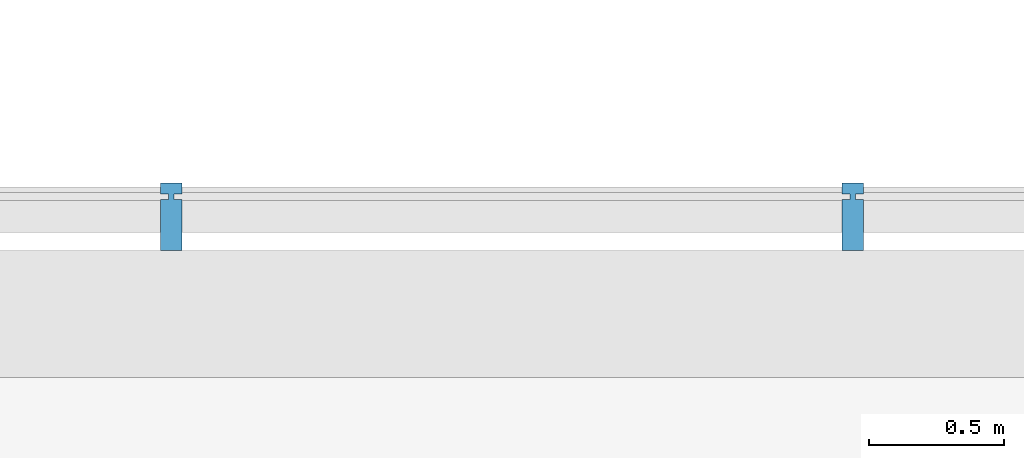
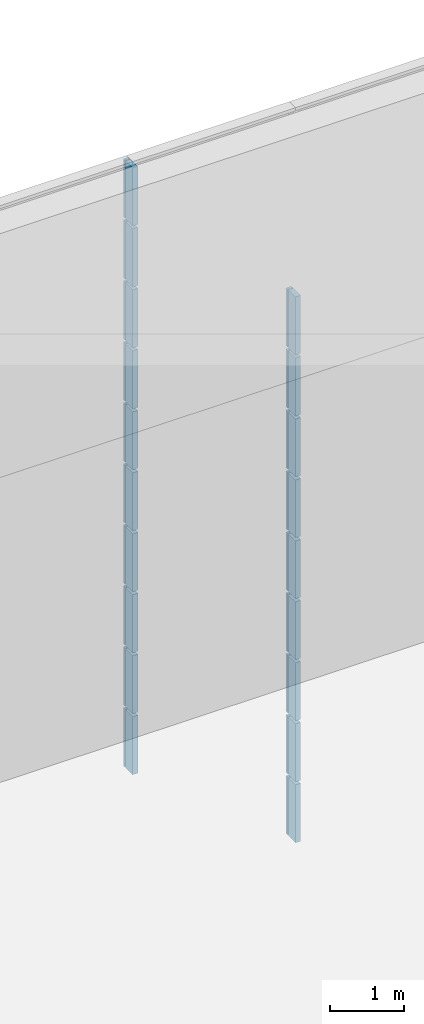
# One storey, part 99 of 105: 19 building element parts, 4 elements without a shape of their own.
"""IFC4 building model written with IfcOpenShell, lengths in millimetres."""

from ifc_helpers import new_model, entity, si_unit, converted_unit, derived_unit, direction, frame, origin_with_axes, place, context, subcontext, project, spatial, triangles, material, element, aggregate, save


model = new_model("IFC4")

# Units and contexts
model_context = context("Model", 3, precision=1e-05, world=origin_with_axes(), true_north=direction((0.0, 1.0)))
body_context = subcontext(model_context, "Body", "Model", "MODEL_VIEW")
ifc_project = project(units=[si_unit("LENGTHUNIT", "METRE", prefix="MILLI"), si_unit("AREAUNIT", "SQUARE_METRE"), si_unit("VOLUMEUNIT", "CUBIC_METRE"), converted_unit("PLANEANGLEUNIT", "DEGREE", entity("IfcLengthMeasure", 0.017453), si_unit("PLANEANGLEUNIT", "RADIAN"), dimensions=[0, 0, 0, 0, 0, 0, 0]), si_unit("SOLIDANGLEUNIT", "STERADIAN"), si_unit("MASSUNIT", "GRAM"), si_unit("TIMEUNIT", "SECOND"), si_unit("THERMODYNAMICTEMPERATUREUNIT", "DEGREE_CELSIUS"), si_unit("LUMINOUSINTENSITYUNIT", "LUMEN"), si_unit("POWERUNIT", "WATT"), derived_unit("THERMALTRANSMITTANCEUNIT", [(si_unit("POWERUNIT", "WATT"), 1), (si_unit("THERMODYNAMICTEMPERATUREUNIT", "KELVIN"), -1), (si_unit("AREAUNIT", "SQUARE_METRE"), -1)])], contexts=[model_context])

# Site, building, storey
site_placement = place(None, origin_with_axes())
site = spatial("IfcSite", under=ifc_project, at=site_placement, Name="Default Site", CompositionType="ELEMENT")
building_placement = place(site_placement, origin_with_axes())
building = spatial("IfcBuilding", under=site, at=building_placement, Name="Default Building", CompositionType="ELEMENT")
storey_placement = place(building_placement, origin_with_axes())
storey = spatial("IfcBuildingStorey", under=building, at=storey_placement, Name="OG - Story", CompositionType="ELEMENT", Elevation=0.0)

# Curtain wall, building element parts
curtain_wall_1_placement = place(storey_placement, origin_with_axes())
curtain_wall_1 = element("IfcCurtainWall", 1, at=curtain_wall_1_placement, inside=storey, Name="Fassade-004", PredefinedType="NOTDEFINED")
ifc_material = material(Name="Blech")
building_element_part_1_placement = place(curtain_wall_1_placement, frame((33014.549222, -4389.262838, 0.0), z_axis=(0.0, 0.0, 1.0), x_axis=(1.0, 0.0, 0.0)))
building_element_part_1 = element("IfcBuildingElementPart", 2, at=building_element_part_1_placement, material=ifc_material, Name="Blech", PredefinedType="NOTDEFINED", context=body_context, shape_type="Tessellation", body=[
    triangles([(41724.211, -9.999, 975.0), (41724.211, -199.999, 975.0), (41694.211, -9.999, 975.0), (41674.211, -9.999, 975.0), (41694.211, 10.0, 975.0), (41724.211, 50.0, 975.0), (41724.211, 10.0, 975.0), (41644.211, -199.999, 975.0), (41644.211, -9.999, 975.0), (41674.211, 10.0, 975.0), (41644.211, 10.0, 975.0), (41644.211, 50.0, 975.0), (41694.211, -9.999, 25.0), (41694.211, 10.0, 25.0), (41724.211, 10.0, 25.0), (41724.211, 50.0, 25.0), (41644.211, 50.0, 25.0), (41644.211, 10.0, 25.0), (41674.211, 10.0, 25.0), (41674.211, -9.999, 25.0), (41644.211, -9.999, 25.0), (41644.211, -199.999, 25.0), (41724.211, -199.999, 25.0), (41724.211, -9.999, 25.0)], [[1, 2, 3], [3, 2, 4], [3, 4, 5], [5, 4, 6], [5, 6, 7], [8, 9, 4], [8, 4, 2], [6, 4, 10], [6, 10, 11], [6, 11, 12], [3, 13, 14], [3, 14, 5], [5, 14, 15], [5, 15, 7], [15, 16, 6], [15, 6, 7], [12, 6, 16], [12, 16, 17], [18, 11, 12], [18, 12, 17], [11, 18, 19], [11, 19, 10], [4, 10, 19], [4, 19, 20], [9, 4, 20], [9, 20, 21], [9, 21, 22], [9, 22, 8], [2, 8, 22], [2, 22, 23], [1, 2, 23], [1, 23, 24], [1, 24, 13], [1, 13, 3], [15, 16, 14], [14, 16, 19], [14, 19, 13], [13, 19, 23], [13, 23, 24], [17, 18, 19], [17, 19, 16], [23, 19, 20], [23, 20, 21], [23, 21, 22]], closed=False),
])
building_element_part_2_placement = place(curtain_wall_1_placement, frame((33014.549222, -4389.262838, 0.0), z_axis=(0.0, 0.0, 1.0), x_axis=(1.0, 0.0, 0.0)))
building_element_part_2 = element("IfcBuildingElementPart", 3, at=building_element_part_2_placement, material=ifc_material, Name="Blech", PredefinedType="NOTDEFINED", context=body_context, shape_type="Tessellation", body=[
    triangles([(41724.211, -9.999, 1975.0), (41724.211, -199.999, 1975.0), (41694.211, -9.999, 1975.0), (41674.211, -9.999, 1975.0), (41694.211, 10.0, 1975.0), (41724.211, 50.0, 1975.0), (41724.211, 10.0, 1975.0), (41644.211, -199.999, 1975.0), (41644.211, -9.999, 1975.0), (41674.211, 10.0, 1975.0), (41644.211, 10.0, 1975.0), (41644.211, 50.0, 1975.0), (41694.211, -9.999, 1025.0), (41694.211, 10.0, 1025.0), (41724.211, 10.0, 1025.0), (41724.211, 50.0, 1025.0), (41644.211, 50.0, 1025.0), (41644.211, 10.0, 1025.0), (41674.211, 10.0, 1025.0), (41674.211, -9.999, 1025.0), (41644.211, -9.999, 1025.0), (41644.211, -199.999, 1025.0), (41724.211, -199.999, 1025.0), (41724.211, -9.999, 1025.0)], [[1, 2, 3], [3, 2, 4], [3, 4, 5], [5, 4, 6], [5, 6, 7], [8, 9, 4], [8, 4, 2], [6, 4, 10], [6, 10, 11], [6, 11, 12], [3, 13, 14], [3, 14, 5], [5, 14, 15], [5, 15, 7], [15, 16, 6], [15, 6, 7], [12, 6, 16], [12, 16, 17], [18, 11, 12], [18, 12, 17], [11, 18, 19], [11, 19, 10], [4, 10, 19], [4, 19, 20], [9, 4, 20], [9, 20, 21], [9, 21, 22], [9, 22, 8], [2, 8, 22], [2, 22, 23], [1, 2, 23], [1, 23, 24], [1, 24, 13], [1, 13, 3], [15, 16, 14], [14, 16, 19], [14, 19, 13], [13, 19, 23], [13, 23, 24], [17, 18, 19], [17, 19, 16], [23, 19, 20], [23, 20, 21], [23, 21, 22]], closed=False),
])
building_element_part_3_placement = place(curtain_wall_1_placement, frame((33014.549222, -4389.262838, 0.0), z_axis=(0.0, 0.0, 1.0), x_axis=(1.0, 0.0, 0.0)))
building_element_part_3 = element("IfcBuildingElementPart", 4, at=building_element_part_3_placement, material=ifc_material, Name="Blech", PredefinedType="NOTDEFINED", context=body_context, shape_type="Tessellation", body=[
    triangles([(39197.895, -9.999, 2975.0), (39197.895, -199.999, 2975.0), (39167.895, -9.999, 2975.0), (39147.895, -9.999, 2975.0), (39167.895, 10.0, 2975.0), (39197.895, 50.0, 2975.0), (39197.895, 10.0, 2975.0), (39117.895, -199.999, 2975.0), (39117.895, -9.999, 2975.0), (39147.895, 10.0, 2975.0), (39117.895, 10.0, 2975.0), (39117.895, 50.0, 2975.0), (39167.895, -9.999, 2025.0), (39167.895, 10.0, 2025.0), (39197.895, 10.0, 2025.0), (39197.895, 50.0, 2025.0), (39117.895, 50.0, 2025.0), (39117.895, 10.0, 2025.0), (39147.895, 10.0, 2025.0), (39147.895, -9.999, 2025.0), (39117.895, -9.999, 2025.0), (39117.895, -199.999, 2025.0), (39197.895, -199.999, 2025.0), (39197.895, -9.999, 2025.0)], [[1, 2, 3], [3, 2, 4], [3, 4, 5], [5, 4, 6], [5, 6, 7], [8, 9, 4], [8, 4, 2], [6, 4, 10], [6, 10, 11], [6, 11, 12], [3, 13, 14], [3, 14, 5], [5, 14, 15], [5, 15, 7], [15, 16, 6], [15, 6, 7], [12, 6, 16], [12, 16, 17], [18, 11, 12], [18, 12, 17], [11, 18, 19], [11, 19, 10], [4, 10, 19], [4, 19, 20], [9, 4, 20], [9, 20, 21], [9, 21, 22], [9, 22, 8], [2, 8, 22], [2, 22, 23], [1, 2, 23], [1, 23, 24], [1, 24, 13], [1, 13, 3], [15, 16, 14], [14, 16, 19], [14, 19, 13], [13, 19, 23], [13, 23, 24], [17, 18, 19], [17, 19, 16], [23, 19, 20], [23, 20, 21], [23, 21, 22]], closed=False),
])
building_element_part_4_placement = place(curtain_wall_1_placement, frame((33014.549222, -4389.262838, 0.0), z_axis=(0.0, 0.0, 1.0), x_axis=(1.0, 0.0, 0.0)))
building_element_part_4 = element("IfcBuildingElementPart", 5, at=building_element_part_4_placement, material=ifc_material, Name="Blech", PredefinedType="NOTDEFINED", context=body_context, shape_type="Tessellation", body=[
    triangles([(41724.211, -9.999, 2975.0), (41724.211, -199.999, 2975.0), (41694.211, -9.999, 2975.0), (41674.211, -9.999, 2975.0), (41694.211, 10.0, 2975.0), (41724.211, 50.0, 2975.0), (41724.211, 10.0, 2975.0), (41644.211, -199.999, 2975.0), (41644.211, -9.999, 2975.0), (41674.211, 10.0, 2975.0), (41644.211, 10.0, 2975.0), (41644.211, 50.0, 2975.0), (41694.211, -9.999, 2025.0), (41694.211, 10.0, 2025.0), (41724.211, 10.0, 2025.0), (41724.211, 50.0, 2025.0), (41644.211, 50.0, 2025.0), (41644.211, 10.0, 2025.0), (41674.211, 10.0, 2025.0), (41674.211, -9.999, 2025.0), (41644.211, -9.999, 2025.0), (41644.211, -199.999, 2025.0), (41724.211, -199.999, 2025.0), (41724.211, -9.999, 2025.0)], [[1, 2, 3], [3, 2, 4], [3, 4, 5], [5, 4, 6], [5, 6, 7], [8, 9, 4], [8, 4, 2], [6, 4, 10], [6, 10, 11], [6, 11, 12], [3, 13, 14], [3, 14, 5], [5, 14, 15], [5, 15, 7], [15, 16, 6], [15, 6, 7], [12, 6, 16], [12, 16, 17], [18, 11, 12], [18, 12, 17], [11, 18, 19], [11, 19, 10], [4, 10, 19], [4, 19, 20], [9, 4, 20], [9, 20, 21], [9, 21, 22], [9, 22, 8], [2, 8, 22], [2, 22, 23], [1, 2, 23], [1, 23, 24], [1, 24, 13], [1, 13, 3], [15, 16, 14], [14, 16, 19], [14, 19, 13], [13, 19, 23], [13, 23, 24], [17, 18, 19], [17, 19, 16], [23, 19, 20], [23, 20, 21], [23, 21, 22]], closed=False),
])
aggregate(curtain_wall_1, [building_element_part_1, building_element_part_2, building_element_part_3, building_element_part_4])

curtain_wall_2_placement = place(storey_placement, origin_with_axes())
curtain_wall_2 = element("IfcCurtainWall", 6, at=curtain_wall_2_placement, inside=storey, Name="Fassade-004", PredefinedType="NOTDEFINED")
building_element_part_5_placement = place(curtain_wall_2_placement, frame((33014.549222, -4389.262838, 3000.0), z_axis=(0.0, 0.0, 1.0), x_axis=(1.0, 0.0, 0.0)))
building_element_part_5 = element("IfcBuildingElementPart", 7, at=building_element_part_5_placement, material=ifc_material, Name="Blech", PredefinedType="NOTDEFINED", context=body_context, shape_type="Tessellation", body=[
    triangles([(39197.895, -9.999, 975.0), (39197.895, -199.999, 975.0), (39167.895, -9.999, 975.0), (39147.895, -9.999, 975.0), (39167.895, 10.0, 975.0), (39197.895, 50.0, 975.0), (39197.895, 10.0, 975.0), (39117.895, -199.999, 975.0), (39117.895, -9.999, 975.0), (39147.895, 10.0, 975.0), (39117.895, 10.0, 975.0), (39117.895, 50.0, 975.0), (39167.895, -9.999, 25.0), (39167.895, 10.0, 25.0), (39197.895, 10.0, 25.0), (39197.895, 50.0, 25.0), (39117.895, 50.0, 25.0), (39117.895, 10.0, 25.0), (39147.895, 10.0, 25.0), (39147.895, -9.999, 25.0), (39117.895, -9.999, 25.0), (39117.895, -199.999, 25.0), (39197.895, -199.999, 25.0), (39197.895, -9.999, 25.0)], [[1, 2, 3], [3, 2, 4], [3, 4, 5], [5, 4, 6], [5, 6, 7], [8, 9, 4], [8, 4, 2], [6, 4, 10], [6, 10, 11], [6, 11, 12], [3, 13, 14], [3, 14, 5], [5, 14, 15], [5, 15, 7], [15, 16, 6], [15, 6, 7], [12, 6, 16], [12, 16, 17], [18, 11, 12], [18, 12, 17], [11, 18, 19], [11, 19, 10], [4, 10, 19], [4, 19, 20], [9, 4, 20], [9, 20, 21], [9, 21, 22], [9, 22, 8], [2, 8, 22], [2, 22, 23], [1, 2, 23], [1, 23, 24], [1, 24, 13], [1, 13, 3], [15, 16, 14], [14, 16, 19], [14, 19, 13], [13, 19, 23], [13, 23, 24], [17, 18, 19], [17, 19, 16], [23, 19, 20], [23, 20, 21], [23, 21, 22]], closed=False),
])
building_element_part_6_placement = place(curtain_wall_2_placement, frame((33014.549222, -4389.262838, 3000.0), z_axis=(0.0, 0.0, 1.0), x_axis=(1.0, 0.0, 0.0)))
building_element_part_6 = element("IfcBuildingElementPart", 8, at=building_element_part_6_placement, material=ifc_material, Name="Blech", PredefinedType="NOTDEFINED", context=body_context, shape_type="Tessellation", body=[
    triangles([(41724.211, -9.999, 975.0), (41724.211, -199.999, 975.0), (41694.211, -9.999, 975.0), (41674.211, -9.999, 975.0), (41694.211, 10.0, 975.0), (41724.211, 50.0, 975.0), (41724.211, 10.0, 975.0), (41644.211, -199.999, 975.0), (41644.211, -9.999, 975.0), (41674.211, 10.0, 975.0), (41644.211, 10.0, 975.0), (41644.211, 50.0, 975.0), (41694.211, -9.999, 25.0), (41694.211, 10.0, 25.0), (41724.211, 10.0, 25.0), (41724.211, 50.0, 25.0), (41644.211, 50.0, 25.0), (41644.211, 10.0, 25.0), (41674.211, 10.0, 25.0), (41674.211, -9.999, 25.0), (41644.211, -9.999, 25.0), (41644.211, -199.999, 25.0), (41724.211, -199.999, 25.0), (41724.211, -9.999, 25.0)], [[1, 2, 3], [3, 2, 4], [3, 4, 5], [5, 4, 6], [5, 6, 7], [8, 9, 4], [8, 4, 2], [6, 4, 10], [6, 10, 11], [6, 11, 12], [3, 13, 14], [3, 14, 5], [5, 14, 15], [5, 15, 7], [15, 16, 6], [15, 6, 7], [12, 6, 16], [12, 16, 17], [18, 11, 12], [18, 12, 17], [11, 18, 19], [11, 19, 10], [4, 10, 19], [4, 19, 20], [9, 4, 20], [9, 20, 21], [9, 21, 22], [9, 22, 8], [2, 8, 22], [2, 22, 23], [1, 2, 23], [1, 23, 24], [1, 24, 13], [1, 13, 3], [15, 16, 14], [14, 16, 19], [14, 19, 13], [13, 19, 23], [13, 23, 24], [17, 18, 19], [17, 19, 16], [23, 19, 20], [23, 20, 21], [23, 21, 22]], closed=False),
])
building_element_part_7_placement = place(curtain_wall_2_placement, frame((33014.549222, -4389.262838, 3000.0), z_axis=(0.0, 0.0, 1.0), x_axis=(1.0, 0.0, 0.0)))
building_element_part_7 = element("IfcBuildingElementPart", 9, at=building_element_part_7_placement, material=ifc_material, Name="Blech", PredefinedType="NOTDEFINED", context=body_context, shape_type="Tessellation", body=[
    triangles([(39197.895, -9.999, 1975.0), (39197.895, -199.999, 1975.0), (39167.895, -9.999, 1975.0), (39147.895, -9.999, 1975.0), (39167.895, 10.0, 1975.0), (39197.895, 50.0, 1975.0), (39197.895, 10.0, 1975.0), (39117.895, -199.999, 1975.0), (39117.895, -9.999, 1975.0), (39147.895, 10.0, 1975.0), (39117.895, 10.0, 1975.0), (39117.895, 50.0, 1975.0), (39167.895, -9.999, 1025.0), (39167.895, 10.0, 1025.0), (39197.895, 10.0, 1025.0), (39197.895, 50.0, 1025.0), (39117.895, 50.0, 1025.0), (39117.895, 10.0, 1025.0), (39147.895, 10.0, 1025.0), (39147.895, -9.999, 1025.0), (39117.895, -9.999, 1025.0), (39117.895, -199.999, 1025.0), (39197.895, -199.999, 1025.0), (39197.895, -9.999, 1025.0)], [[1, 2, 3], [3, 2, 4], [3, 4, 5], [5, 4, 6], [5, 6, 7], [8, 9, 4], [8, 4, 2], [6, 4, 10], [6, 10, 11], [6, 11, 12], [3, 13, 14], [3, 14, 5], [5, 14, 15], [5, 15, 7], [15, 16, 6], [15, 6, 7], [12, 6, 16], [12, 16, 17], [18, 11, 12], [18, 12, 17], [11, 18, 19], [11, 19, 10], [4, 10, 19], [4, 19, 20], [9, 4, 20], [9, 20, 21], [9, 21, 22], [9, 22, 8], [2, 8, 22], [2, 22, 23], [1, 2, 23], [1, 23, 24], [1, 24, 13], [1, 13, 3], [15, 16, 14], [14, 16, 19], [14, 19, 13], [13, 19, 23], [13, 23, 24], [17, 18, 19], [17, 19, 16], [23, 19, 20], [23, 20, 21], [23, 21, 22]], closed=False),
])
building_element_part_8_placement = place(curtain_wall_2_placement, frame((33014.549222, -4389.262838, 3000.0), z_axis=(0.0, 0.0, 1.0), x_axis=(1.0, 0.0, 0.0)))
building_element_part_8 = element("IfcBuildingElementPart", 10, at=building_element_part_8_placement, material=ifc_material, Name="Blech", PredefinedType="NOTDEFINED", context=body_context, shape_type="Tessellation", body=[
    triangles([(41724.211, -9.999, 1975.0), (41724.211, -199.999, 1975.0), (41694.211, -9.999, 1975.0), (41674.211, -9.999, 1975.0), (41694.211, 10.0, 1975.0), (41724.211, 50.0, 1975.0), (41724.211, 10.0, 1975.0), (41644.211, -199.999, 1975.0), (41644.211, -9.999, 1975.0), (41674.211, 10.0, 1975.0), (41644.211, 10.0, 1975.0), (41644.211, 50.0, 1975.0), (41694.211, -9.999, 1025.0), (41694.211, 10.0, 1025.0), (41724.211, 10.0, 1025.0), (41724.211, 50.0, 1025.0), (41644.211, 50.0, 1025.0), (41644.211, 10.0, 1025.0), (41674.211, 10.0, 1025.0), (41674.211, -9.999, 1025.0), (41644.211, -9.999, 1025.0), (41644.211, -199.999, 1025.0), (41724.211, -199.999, 1025.0), (41724.211, -9.999, 1025.0)], [[1, 2, 3], [3, 2, 4], [3, 4, 5], [5, 4, 6], [5, 6, 7], [8, 9, 4], [8, 4, 2], [6, 4, 10], [6, 10, 11], [6, 11, 12], [3, 13, 14], [3, 14, 5], [5, 14, 15], [5, 15, 7], [15, 16, 6], [15, 6, 7], [12, 6, 16], [12, 16, 17], [18, 11, 12], [18, 12, 17], [11, 18, 19], [11, 19, 10], [4, 10, 19], [4, 19, 20], [9, 4, 20], [9, 20, 21], [9, 21, 22], [9, 22, 8], [2, 8, 22], [2, 22, 23], [1, 2, 23], [1, 23, 24], [1, 24, 13], [1, 13, 3], [15, 16, 14], [14, 16, 19], [14, 19, 13], [13, 19, 23], [13, 23, 24], [17, 18, 19], [17, 19, 16], [23, 19, 20], [23, 20, 21], [23, 21, 22]], closed=False),
])
building_element_part_9_placement = place(curtain_wall_2_placement, frame((33014.549222, -4389.262838, 3000.0), z_axis=(0.0, 0.0, 1.0), x_axis=(1.0, 0.0, 0.0)))
building_element_part_9 = element("IfcBuildingElementPart", 11, at=building_element_part_9_placement, material=ifc_material, Name="Blech", PredefinedType="NOTDEFINED", context=body_context, shape_type="Tessellation", body=[
    triangles([(39197.895, -9.999, 2975.0), (39197.895, -199.999, 2975.0), (39167.895, -9.999, 2975.0), (39147.895, -9.999, 2975.0), (39167.895, 10.0, 2975.0), (39197.895, 50.0, 2975.0), (39197.895, 10.0, 2975.0), (39117.895, -199.999, 2975.0), (39117.895, -9.999, 2975.0), (39147.895, 10.0, 2975.0), (39117.895, 10.0, 2975.0), (39117.895, 50.0, 2975.0), (39167.895, -9.999, 2025.0), (39167.895, 10.0, 2025.0), (39197.895, 10.0, 2025.0), (39197.895, 50.0, 2025.0), (39117.895, 50.0, 2025.0), (39117.895, 10.0, 2025.0), (39147.895, 10.0, 2025.0), (39147.895, -9.999, 2025.0), (39117.895, -9.999, 2025.0), (39117.895, -199.999, 2025.0), (39197.895, -199.999, 2025.0), (39197.895, -9.999, 2025.0)], [[1, 2, 3], [3, 2, 4], [3, 4, 5], [5, 4, 6], [5, 6, 7], [8, 9, 4], [8, 4, 2], [6, 4, 10], [6, 10, 11], [6, 11, 12], [3, 13, 14], [3, 14, 5], [5, 14, 15], [5, 15, 7], [15, 16, 6], [15, 6, 7], [12, 6, 16], [12, 16, 17], [18, 11, 12], [18, 12, 17], [11, 18, 19], [11, 19, 10], [4, 10, 19], [4, 19, 20], [9, 4, 20], [9, 20, 21], [9, 21, 22], [9, 22, 8], [2, 8, 22], [2, 22, 23], [1, 2, 23], [1, 23, 24], [1, 24, 13], [1, 13, 3], [15, 16, 14], [14, 16, 19], [14, 19, 13], [13, 19, 23], [13, 23, 24], [17, 18, 19], [17, 19, 16], [23, 19, 20], [23, 20, 21], [23, 21, 22]], closed=False),
])
building_element_part_10_placement = place(curtain_wall_2_placement, frame((33014.549222, -4389.262838, 3000.0), z_axis=(0.0, 0.0, 1.0), x_axis=(1.0, 0.0, 0.0)))
building_element_part_10 = element("IfcBuildingElementPart", 12, at=building_element_part_10_placement, material=ifc_material, Name="Blech", PredefinedType="NOTDEFINED", context=body_context, shape_type="Tessellation", body=[
    triangles([(41724.211, -9.999, 2975.0), (41724.211, -199.999, 2975.0), (41694.211, -9.999, 2975.0), (41674.211, -9.999, 2975.0), (41694.211, 10.0, 2975.0), (41724.211, 50.0, 2975.0), (41724.211, 10.0, 2975.0), (41644.211, -199.999, 2975.0), (41644.211, -9.999, 2975.0), (41674.211, 10.0, 2975.0), (41644.211, 10.0, 2975.0), (41644.211, 50.0, 2975.0), (41694.211, -9.999, 2025.0), (41694.211, 10.0, 2025.0), (41724.211, 10.0, 2025.0), (41724.211, 50.0, 2025.0), (41644.211, 50.0, 2025.0), (41644.211, 10.0, 2025.0), (41674.211, 10.0, 2025.0), (41674.211, -9.999, 2025.0), (41644.211, -9.999, 2025.0), (41644.211, -199.999, 2025.0), (41724.211, -199.999, 2025.0), (41724.211, -9.999, 2025.0)], [[1, 2, 3], [3, 2, 4], [3, 4, 5], [5, 4, 6], [5, 6, 7], [8, 9, 4], [8, 4, 2], [6, 4, 10], [6, 10, 11], [6, 11, 12], [3, 13, 14], [3, 14, 5], [5, 14, 15], [5, 15, 7], [15, 16, 6], [15, 6, 7], [12, 6, 16], [12, 16, 17], [18, 11, 12], [18, 12, 17], [11, 18, 19], [11, 19, 10], [4, 10, 19], [4, 19, 20], [9, 4, 20], [9, 20, 21], [9, 21, 22], [9, 22, 8], [2, 8, 22], [2, 22, 23], [1, 2, 23], [1, 23, 24], [1, 24, 13], [1, 13, 3], [15, 16, 14], [14, 16, 19], [14, 19, 13], [13, 19, 23], [13, 23, 24], [17, 18, 19], [17, 19, 16], [23, 19, 20], [23, 20, 21], [23, 21, 22]], closed=False),
])
aggregate(curtain_wall_2, [building_element_part_5, building_element_part_6, building_element_part_7, building_element_part_8, building_element_part_9, building_element_part_10])

curtain_wall_3_placement = place(storey_placement, origin_with_axes())
curtain_wall_3 = element("IfcCurtainWall", 13, at=curtain_wall_3_placement, inside=storey, Name="Fassade-004", PredefinedType="NOTDEFINED")
building_element_part_11_placement = place(curtain_wall_3_placement, frame((33014.549222, -4389.262838, 6000.0), z_axis=(0.0, 0.0, 1.0), x_axis=(1.0, 0.0, 0.0)))
building_element_part_11 = element("IfcBuildingElementPart", 14, at=building_element_part_11_placement, material=ifc_material, Name="Blech", PredefinedType="NOTDEFINED", context=body_context, shape_type="Tessellation", body=[
    triangles([(39197.895, -9.999, 975.0), (39197.895, -199.999, 975.0), (39167.895, -9.999, 975.0), (39147.895, -9.999, 975.0), (39167.895, 10.0, 975.0), (39197.895, 50.0, 975.0), (39197.895, 10.0, 975.0), (39117.895, -199.999, 975.0), (39117.895, -9.999, 975.0), (39147.895, 10.0, 975.0), (39117.895, 10.0, 975.0), (39117.895, 50.0, 975.0), (39167.895, -9.999, 25.0), (39167.895, 10.0, 25.0), (39197.895, 10.0, 25.0), (39197.895, 50.0, 25.0), (39117.895, 50.0, 25.0), (39117.895, 10.0, 25.0), (39147.895, 10.0, 25.0), (39147.895, -9.999, 25.0), (39117.895, -9.999, 25.0), (39117.895, -199.999, 25.0), (39197.895, -199.999, 25.0), (39197.895, -9.999, 25.0)], [[1, 2, 3], [3, 2, 4], [3, 4, 5], [5, 4, 6], [5, 6, 7], [8, 9, 4], [8, 4, 2], [6, 4, 10], [6, 10, 11], [6, 11, 12], [3, 13, 14], [3, 14, 5], [5, 14, 15], [5, 15, 7], [15, 16, 6], [15, 6, 7], [12, 6, 16], [12, 16, 17], [18, 11, 12], [18, 12, 17], [11, 18, 19], [11, 19, 10], [4, 10, 19], [4, 19, 20], [9, 4, 20], [9, 20, 21], [9, 21, 22], [9, 22, 8], [2, 8, 22], [2, 22, 23], [1, 2, 23], [1, 23, 24], [1, 24, 13], [1, 13, 3], [15, 16, 14], [14, 16, 19], [14, 19, 13], [13, 19, 23], [13, 23, 24], [17, 18, 19], [17, 19, 16], [23, 19, 20], [23, 20, 21], [23, 21, 22]], closed=False),
])
building_element_part_12_placement = place(curtain_wall_3_placement, frame((33014.549222, -4389.262838, 6000.0), z_axis=(0.0, 0.0, 1.0), x_axis=(1.0, 0.0, 0.0)))
building_element_part_12 = element("IfcBuildingElementPart", 15, at=building_element_part_12_placement, material=ifc_material, Name="Blech", PredefinedType="NOTDEFINED", context=body_context, shape_type="Tessellation", body=[
    triangles([(41724.211, -9.999, 975.0), (41724.211, -199.999, 975.0), (41694.211, -9.999, 975.0), (41674.211, -9.999, 975.0), (41694.211, 10.0, 975.0), (41724.211, 50.0, 975.0), (41724.211, 10.0, 975.0), (41644.211, -199.999, 975.0), (41644.211, -9.999, 975.0), (41674.211, 10.0, 975.0), (41644.211, 10.0, 975.0), (41644.211, 50.0, 975.0), (41694.211, -9.999, 25.0), (41694.211, 10.0, 25.0), (41724.211, 10.0, 25.0), (41724.211, 50.0, 25.0), (41644.211, 50.0, 25.0), (41644.211, 10.0, 25.0), (41674.211, 10.0, 25.0), (41674.211, -9.999, 25.0), (41644.211, -9.999, 25.0), (41644.211, -199.999, 25.0), (41724.211, -199.999, 25.0), (41724.211, -9.999, 25.0)], [[1, 2, 3], [3, 2, 4], [3, 4, 5], [5, 4, 6], [5, 6, 7], [8, 9, 4], [8, 4, 2], [6, 4, 10], [6, 10, 11], [6, 11, 12], [3, 13, 14], [3, 14, 5], [5, 14, 15], [5, 15, 7], [15, 16, 6], [15, 6, 7], [12, 6, 16], [12, 16, 17], [18, 11, 12], [18, 12, 17], [11, 18, 19], [11, 19, 10], [4, 10, 19], [4, 19, 20], [9, 4, 20], [9, 20, 21], [9, 21, 22], [9, 22, 8], [2, 8, 22], [2, 22, 23], [1, 2, 23], [1, 23, 24], [1, 24, 13], [1, 13, 3], [15, 16, 14], [14, 16, 19], [14, 19, 13], [13, 19, 23], [13, 23, 24], [17, 18, 19], [17, 19, 16], [23, 19, 20], [23, 20, 21], [23, 21, 22]], closed=False),
])
building_element_part_13_placement = place(curtain_wall_3_placement, frame((33014.549222, -4389.262838, 6000.0), z_axis=(0.0, 0.0, 1.0), x_axis=(1.0, 0.0, 0.0)))
building_element_part_13 = element("IfcBuildingElementPart", 16, at=building_element_part_13_placement, material=ifc_material, Name="Blech", PredefinedType="NOTDEFINED", context=body_context, shape_type="Tessellation", body=[
    triangles([(39197.895, -9.999, 1975.0), (39197.895, -199.999, 1975.0), (39167.895, -9.999, 1975.0), (39147.895, -9.999, 1975.0), (39167.895, 10.0, 1975.0), (39197.895, 50.0, 1975.0), (39197.895, 10.0, 1975.0), (39117.895, -199.999, 1975.0), (39117.895, -9.999, 1975.0), (39147.895, 10.0, 1975.0), (39117.895, 10.0, 1975.0), (39117.895, 50.0, 1975.0), (39167.895, -9.999, 1025.0), (39167.895, 10.0, 1025.0), (39197.895, 10.0, 1025.0), (39197.895, 50.0, 1025.0), (39117.895, 50.0, 1025.0), (39117.895, 10.0, 1025.0), (39147.895, 10.0, 1025.0), (39147.895, -9.999, 1025.0), (39117.895, -9.999, 1025.0), (39117.895, -199.999, 1025.0), (39197.895, -199.999, 1025.0), (39197.895, -9.999, 1025.0)], [[1, 2, 3], [3, 2, 4], [3, 4, 5], [5, 4, 6], [5, 6, 7], [8, 9, 4], [8, 4, 2], [6, 4, 10], [6, 10, 11], [6, 11, 12], [3, 13, 14], [3, 14, 5], [5, 14, 15], [5, 15, 7], [15, 16, 6], [15, 6, 7], [12, 6, 16], [12, 16, 17], [18, 11, 12], [18, 12, 17], [11, 18, 19], [11, 19, 10], [4, 10, 19], [4, 19, 20], [9, 4, 20], [9, 20, 21], [9, 21, 22], [9, 22, 8], [2, 8, 22], [2, 22, 23], [1, 2, 23], [1, 23, 24], [1, 24, 13], [1, 13, 3], [15, 16, 14], [14, 16, 19], [14, 19, 13], [13, 19, 23], [13, 23, 24], [17, 18, 19], [17, 19, 16], [23, 19, 20], [23, 20, 21], [23, 21, 22]], closed=False),
])
building_element_part_14_placement = place(curtain_wall_3_placement, frame((33014.549222, -4389.262838, 6000.0), z_axis=(0.0, 0.0, 1.0), x_axis=(1.0, 0.0, 0.0)))
building_element_part_14 = element("IfcBuildingElementPart", 17, at=building_element_part_14_placement, material=ifc_material, Name="Blech", PredefinedType="NOTDEFINED", context=body_context, shape_type="Tessellation", body=[
    triangles([(41724.211, -9.999, 1975.0), (41724.211, -199.999, 1975.0), (41694.211, -9.999, 1975.0), (41674.211, -9.999, 1975.0), (41694.211, 10.0, 1975.0), (41724.211, 50.0, 1975.0), (41724.211, 10.0, 1975.0), (41644.211, -199.999, 1975.0), (41644.211, -9.999, 1975.0), (41674.211, 10.0, 1975.0), (41644.211, 10.0, 1975.0), (41644.211, 50.0, 1975.0), (41694.211, -9.999, 1025.0), (41694.211, 10.0, 1025.0), (41724.211, 10.0, 1025.0), (41724.211, 50.0, 1025.0), (41644.211, 50.0, 1025.0), (41644.211, 10.0, 1025.0), (41674.211, 10.0, 1025.0), (41674.211, -9.999, 1025.0), (41644.211, -9.999, 1025.0), (41644.211, -199.999, 1025.0), (41724.211, -199.999, 1025.0), (41724.211, -9.999, 1025.0)], [[1, 2, 3], [3, 2, 4], [3, 4, 5], [5, 4, 6], [5, 6, 7], [8, 9, 4], [8, 4, 2], [6, 4, 10], [6, 10, 11], [6, 11, 12], [3, 13, 14], [3, 14, 5], [5, 14, 15], [5, 15, 7], [15, 16, 6], [15, 6, 7], [12, 6, 16], [12, 16, 17], [18, 11, 12], [18, 12, 17], [11, 18, 19], [11, 19, 10], [4, 10, 19], [4, 19, 20], [9, 4, 20], [9, 20, 21], [9, 21, 22], [9, 22, 8], [2, 8, 22], [2, 22, 23], [1, 2, 23], [1, 23, 24], [1, 24, 13], [1, 13, 3], [15, 16, 14], [14, 16, 19], [14, 19, 13], [13, 19, 23], [13, 23, 24], [17, 18, 19], [17, 19, 16], [23, 19, 20], [23, 20, 21], [23, 21, 22]], closed=False),
])
building_element_part_15_placement = place(curtain_wall_3_placement, frame((33014.549222, -4389.262838, 6000.0), z_axis=(0.0, 0.0, 1.0), x_axis=(1.0, 0.0, 0.0)))
building_element_part_15 = element("IfcBuildingElementPart", 18, at=building_element_part_15_placement, material=ifc_material, Name="Blech", PredefinedType="NOTDEFINED", context=body_context, shape_type="Tessellation", body=[
    triangles([(39197.895, -9.999, 2975.0), (39197.895, -199.999, 2975.0), (39167.895, -9.999, 2975.0), (39147.895, -9.999, 2975.0), (39167.895, 10.0, 2975.0), (39197.895, 50.0, 2975.0), (39197.895, 10.0, 2975.0), (39117.895, -199.999, 2975.0), (39117.895, -9.999, 2975.0), (39147.895, 10.0, 2975.0), (39117.895, 10.0, 2975.0), (39117.895, 50.0, 2975.0), (39167.895, -9.999, 2025.0), (39167.895, 10.0, 2025.0), (39197.895, 10.0, 2025.0), (39197.895, 50.0, 2025.0), (39117.895, 50.0, 2025.0), (39117.895, 10.0, 2025.0), (39147.895, 10.0, 2025.0), (39147.895, -9.999, 2025.0), (39117.895, -9.999, 2025.0), (39117.895, -199.999, 2025.0), (39197.895, -199.999, 2025.0), (39197.895, -9.999, 2025.0)], [[1, 2, 3], [3, 2, 4], [3, 4, 5], [5, 4, 6], [5, 6, 7], [8, 9, 4], [8, 4, 2], [6, 4, 10], [6, 10, 11], [6, 11, 12], [3, 13, 14], [3, 14, 5], [5, 14, 15], [5, 15, 7], [15, 16, 6], [15, 6, 7], [12, 6, 16], [12, 16, 17], [18, 11, 12], [18, 12, 17], [11, 18, 19], [11, 19, 10], [4, 10, 19], [4, 19, 20], [9, 4, 20], [9, 20, 21], [9, 21, 22], [9, 22, 8], [2, 8, 22], [2, 22, 23], [1, 2, 23], [1, 23, 24], [1, 24, 13], [1, 13, 3], [15, 16, 14], [14, 16, 19], [14, 19, 13], [13, 19, 23], [13, 23, 24], [17, 18, 19], [17, 19, 16], [23, 19, 20], [23, 20, 21], [23, 21, 22]], closed=False),
])
building_element_part_16_placement = place(curtain_wall_3_placement, frame((33014.549222, -4389.262838, 6000.0), z_axis=(0.0, 0.0, 1.0), x_axis=(1.0, 0.0, 0.0)))
building_element_part_16 = element("IfcBuildingElementPart", 19, at=building_element_part_16_placement, material=ifc_material, Name="Blech", PredefinedType="NOTDEFINED", context=body_context, shape_type="Tessellation", body=[
    triangles([(41724.211, -9.999, 2975.0), (41724.211, -199.999, 2975.0), (41694.211, -9.999, 2975.0), (41674.211, -9.999, 2975.0), (41694.211, 10.0, 2975.0), (41724.211, 50.0, 2975.0), (41724.211, 10.0, 2975.0), (41644.211, -199.999, 2975.0), (41644.211, -9.999, 2975.0), (41674.211, 10.0, 2975.0), (41644.211, 10.0, 2975.0), (41644.211, 50.0, 2975.0), (41694.211, -9.999, 2025.0), (41694.211, 10.0, 2025.0), (41724.211, 10.0, 2025.0), (41724.211, 50.0, 2025.0), (41644.211, 50.0, 2025.0), (41644.211, 10.0, 2025.0), (41674.211, 10.0, 2025.0), (41674.211, -9.999, 2025.0), (41644.211, -9.999, 2025.0), (41644.211, -199.999, 2025.0), (41724.211, -199.999, 2025.0), (41724.211, -9.999, 2025.0)], [[1, 2, 3], [3, 2, 4], [3, 4, 5], [5, 4, 6], [5, 6, 7], [8, 9, 4], [8, 4, 2], [6, 4, 10], [6, 10, 11], [6, 11, 12], [3, 13, 14], [3, 14, 5], [5, 14, 15], [5, 15, 7], [15, 16, 6], [15, 6, 7], [12, 6, 16], [12, 16, 17], [18, 11, 12], [18, 12, 17], [11, 18, 19], [11, 19, 10], [4, 10, 19], [4, 19, 20], [9, 4, 20], [9, 20, 21], [9, 21, 22], [9, 22, 8], [2, 8, 22], [2, 22, 23], [1, 2, 23], [1, 23, 24], [1, 24, 13], [1, 13, 3], [15, 16, 14], [14, 16, 19], [14, 19, 13], [13, 19, 23], [13, 23, 24], [17, 18, 19], [17, 19, 16], [23, 19, 20], [23, 20, 21], [23, 21, 22]], closed=False),
])
aggregate(curtain_wall_3, [building_element_part_11, building_element_part_12, building_element_part_13, building_element_part_14, building_element_part_15, building_element_part_16])

curtain_wall_4_placement = place(storey_placement, origin_with_axes())
curtain_wall_4 = element("IfcCurtainWall", 20, at=curtain_wall_4_placement, inside=storey, Name="Fassade-004", PredefinedType="NOTDEFINED")
building_element_part_17_placement = place(curtain_wall_4_placement, frame((33014.549222, -4389.262838, 9000.0), z_axis=(0.0, 0.0, 1.0), x_axis=(1.0, 0.0, 0.0)))
building_element_part_17 = element("IfcBuildingElementPart", 21, at=building_element_part_17_placement, material=ifc_material, Name="Blech", PredefinedType="NOTDEFINED", context=body_context, shape_type="Tessellation", body=[
    triangles([(39197.895, -9.999, 975.0), (39197.895, -199.999, 975.0), (39167.895, -9.999, 975.0), (39147.895, -9.999, 975.0), (39167.895, 10.0, 975.0), (39197.895, 50.0, 975.0), (39197.895, 10.0, 975.0), (39117.895, -199.999, 975.0), (39117.895, -9.999, 975.0), (39147.895, 10.0, 975.0), (39117.895, 10.0, 975.0), (39117.895, 50.0, 975.0), (39167.895, -9.999, 25.0), (39167.895, 10.0, 25.0), (39197.895, 10.0, 25.0), (39197.895, 50.0, 25.0), (39117.895, 50.0, 25.0), (39117.895, 10.0, 25.0), (39147.895, 10.0, 25.0), (39147.895, -9.999, 25.0), (39117.895, -9.999, 25.0), (39117.895, -199.999, 25.0), (39197.895, -199.999, 25.0), (39197.895, -9.999, 25.0)], [[1, 2, 3], [3, 2, 4], [3, 4, 5], [5, 4, 6], [5, 6, 7], [8, 9, 4], [8, 4, 2], [6, 4, 10], [6, 10, 11], [6, 11, 12], [3, 13, 14], [3, 14, 5], [5, 14, 15], [5, 15, 7], [15, 16, 6], [15, 6, 7], [12, 6, 16], [12, 16, 17], [18, 11, 12], [18, 12, 17], [11, 18, 19], [11, 19, 10], [4, 10, 19], [4, 19, 20], [9, 4, 20], [9, 20, 21], [9, 21, 22], [9, 22, 8], [2, 8, 22], [2, 22, 23], [1, 2, 23], [1, 23, 24], [1, 24, 13], [1, 13, 3], [15, 16, 14], [14, 16, 19], [14, 19, 13], [13, 19, 23], [13, 23, 24], [17, 18, 19], [17, 19, 16], [23, 19, 20], [23, 20, 21], [23, 21, 22]], closed=False),
])
building_element_part_18_placement = place(curtain_wall_4_placement, frame((33014.549222, -4389.262838, 9000.0), z_axis=(0.0, 0.0, 1.0), x_axis=(1.0, 0.0, 0.0)))
building_element_part_18 = element("IfcBuildingElementPart", 22, at=building_element_part_18_placement, material=ifc_material, Name="Blech", PredefinedType="NOTDEFINED", context=body_context, shape_type="Tessellation", body=[
    triangles([(39197.895, -9.999, 1975.0), (39197.895, -199.999, 1975.0), (39167.895, -9.999, 1975.0), (39147.895, -9.999, 1975.0), (39167.895, 10.0, 1975.0), (39197.895, 50.0, 1975.0), (39197.895, 10.0, 1975.0), (39117.895, -199.999, 1975.0), (39117.895, -9.999, 1975.0), (39147.895, 10.0, 1975.0), (39117.895, 10.0, 1975.0), (39117.895, 50.0, 1975.0), (39167.895, -9.999, 1025.0), (39167.895, 10.0, 1025.0), (39197.895, 10.0, 1025.0), (39197.895, 50.0, 1025.0), (39117.895, 50.0, 1025.0), (39117.895, 10.0, 1025.0), (39147.895, 10.0, 1025.0), (39147.895, -9.999, 1025.0), (39117.895, -9.999, 1025.0), (39117.895, -199.999, 1025.0), (39197.895, -199.999, 1025.0), (39197.895, -9.999, 1025.0)], [[1, 2, 3], [3, 2, 4], [3, 4, 5], [5, 4, 6], [5, 6, 7], [8, 9, 4], [8, 4, 2], [6, 4, 10], [6, 10, 11], [6, 11, 12], [3, 13, 14], [3, 14, 5], [5, 14, 15], [5, 15, 7], [15, 16, 6], [15, 6, 7], [12, 6, 16], [12, 16, 17], [18, 11, 12], [18, 12, 17], [11, 18, 19], [11, 19, 10], [4, 10, 19], [4, 19, 20], [9, 4, 20], [9, 20, 21], [9, 21, 22], [9, 22, 8], [2, 8, 22], [2, 22, 23], [1, 2, 23], [1, 23, 24], [1, 24, 13], [1, 13, 3], [15, 16, 14], [14, 16, 19], [14, 19, 13], [13, 19, 23], [13, 23, 24], [17, 18, 19], [17, 19, 16], [23, 19, 20], [23, 20, 21], [23, 21, 22]], closed=False),
])
building_element_part_19_placement = place(curtain_wall_4_placement, frame((33014.549222, -4389.262838, 9000.0), z_axis=(0.0, 0.0, 1.0), x_axis=(1.0, 0.0, 0.0)))
building_element_part_19 = element("IfcBuildingElementPart", 23, at=building_element_part_19_placement, material=ifc_material, Name="Blech", PredefinedType="NOTDEFINED", context=body_context, shape_type="Tessellation", body=[
    triangles([(39197.895, -9.999, 2975.0), (39197.895, -199.999, 2975.0), (39167.895, -9.999, 2975.0), (39147.895, -9.999, 2975.0), (39167.895, 10.0, 2975.0), (39197.895, 50.0, 2975.0), (39197.895, 10.0, 2975.0), (39117.895, -199.999, 2975.0), (39117.895, -9.999, 2975.0), (39147.895, 10.0, 2975.0), (39117.895, 10.0, 2975.0), (39117.895, 50.0, 2975.0), (39167.895, -9.999, 2025.0), (39167.895, 10.0, 2025.0), (39197.895, 10.0, 2025.0), (39197.895, 50.0, 2025.0), (39117.895, 50.0, 2025.0), (39117.895, 10.0, 2025.0), (39147.895, 10.0, 2025.0), (39147.895, -9.999, 2025.0), (39117.895, -9.999, 2025.0), (39117.895, -199.999, 2025.0), (39197.895, -199.999, 2025.0), (39197.895, -9.999, 2025.0)], [[1, 2, 3], [3, 2, 4], [3, 4, 5], [5, 4, 6], [5, 6, 7], [8, 9, 4], [8, 4, 2], [6, 4, 10], [6, 10, 11], [6, 11, 12], [3, 13, 14], [3, 14, 5], [5, 14, 15], [5, 15, 7], [15, 16, 6], [15, 6, 7], [12, 6, 16], [12, 16, 17], [18, 11, 12], [18, 12, 17], [11, 18, 19], [11, 19, 10], [4, 10, 19], [4, 19, 20], [9, 4, 20], [9, 20, 21], [9, 21, 22], [9, 22, 8], [2, 8, 22], [2, 22, 23], [1, 2, 23], [1, 23, 24], [1, 24, 13], [1, 13, 3], [15, 16, 14], [14, 16, 19], [14, 19, 13], [13, 19, 23], [13, 23, 24], [17, 18, 19], [17, 19, 16], [23, 19, 20], [23, 20, 21], [23, 21, 22]], closed=False),
])
aggregate(curtain_wall_4, [building_element_part_17, building_element_part_18, building_element_part_19])

save(model, "model.ifc")
